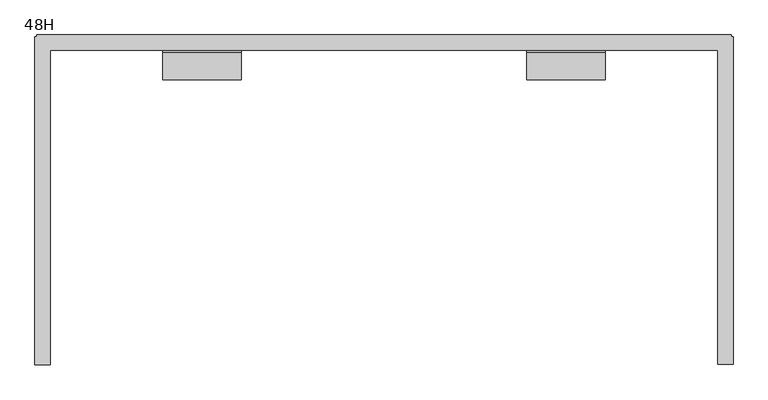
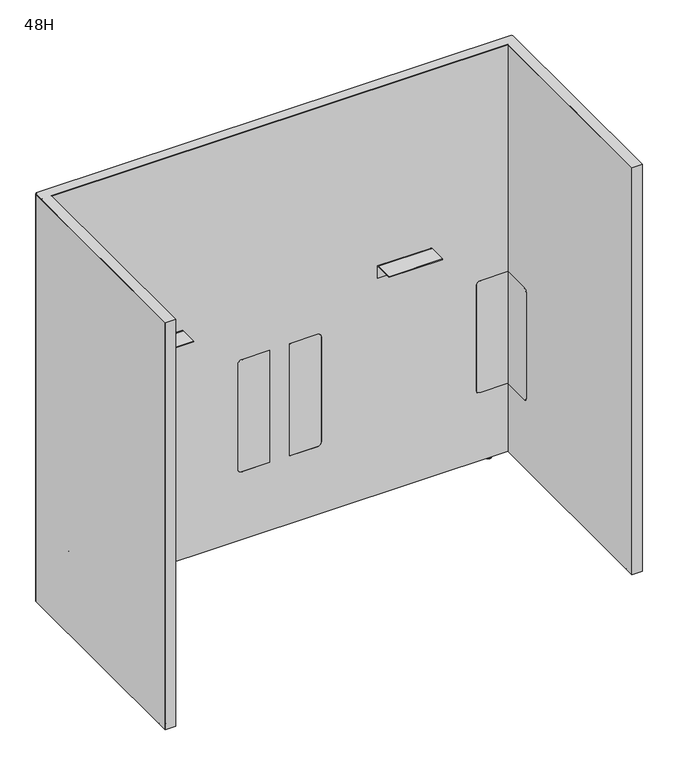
"""IFC4 building model written with IfcOpenShell, lengths in millimetres: furniture geometry, Steelcase - Answer Solution - Boundary Screen - L Return - Split : 48H."""

from ifc_helpers import new_model, si_unit, point, frame, frame_2d, origin, place, context, project, spatial, polyline, circle_curve, ellipse_curve, trimmed, segment, composite_curve, outline, extrude, faceted_brep, source, transform, mapped, element, save
from ifc_brep_helpers import plane_surface, cylinder_surface, revolved_surface, advanced_brep


def furniture_48h_390be50f(model_context):
    return source(origin(), model_context, "Body", "SolidModel", [
        extrude(outline(composite_curve([segment(polyline([(-109.3501471, 549.6162029), (-29.0550397, 549.6162029), (-29.0550397, 213.7762137), (-109.3501471, 213.7762137)]), True, "CONTINUOUS"), segment(trimmed(circle_curve(frame_2d((-109.3501471, 223.9362137)), 10.16), [point((-109.3501471, 213.7762137))], [point((-119.5101471, 223.9362137))], False, "CARTESIAN"), True, "CONTINUOUS"), segment(polyline([(-119.5101471, 223.9362137), (-119.5101471, 539.4562029)]), True, "CONTINUOUS"), segment(trimmed(circle_curve(frame_2d((-109.3501471, 539.4562029)), 10.16), [point((-119.5101471, 539.4562029))], [point((-109.3501471, 549.6162029))], False, "CARTESIAN"), True, "CONTINUOUS")], self_intersect=False)), frame((-418.5209652, 0.0, 0.0), z_axis=(1.0, 0.0, 0.0), x_axis=(0.0, 1.0, 0.0)), (0.0, 0.0, 1.0), 0.6401544),
        extrude(outline(composite_curve([segment(polyline([(-109.3501471, 549.6162029), (-29.0550397, 549.6162029), (-29.0550397, 213.7762137), (-109.3501471, 213.7762137)]), True, "CONTINUOUS"), segment(trimmed(circle_curve(frame_2d((-109.3501471, 223.9362137)), 10.16), [point((-109.3501471, 213.7762137))], [point((-119.5101471, 223.9362137))], False, "CARTESIAN"), True, "CONTINUOUS"), segment(polyline([(-119.5101471, 223.9362137), (-119.5101471, 539.4562029)]), True, "CONTINUOUS"), segment(trimmed(circle_curve(frame_2d((-109.3501471, 539.4562029)), 10.16), [point((-119.5101471, 539.4562029))], [point((-109.3501471, 549.6162029))], False, "CARTESIAN"), True, "CONTINUOUS")], self_intersect=False)), frame((877.5191891, 0.0, 0.0), z_axis=(1.0, 0.0, 0.0), x_axis=(0.0, 1.0, 0.0)), (0.0, 0.0, 1.0), 0.6401544),
        advanced_brep(
        [(892.3672074, -600.4136072, 0.0), (899.3216144, -600.4136072, 0.0), (885.4128003, -600.4136072, 0.0), (900.7762685, -600.4136072, 1.2700001), (883.9581463, -600.4136072, 1.2700001), (900.7762685, -600.4136072, 2.9673238), (883.9581463, -600.4136072, 2.9673238), (901.7427877, -600.4136072, 2.9673238), (882.991627, -600.4136072, 2.9673238), (901.7427877, -600.4136072, 9.9059849), (882.991627, -600.4136072, 9.9059849), (892.3672074, -600.4136072, 9.9059849)],
        [
            (0, 1),
            (1, 2, circle_curve(frame((892.3672074, -600.4136072, 0.0), z_axis=(0.0, 0.0, -1.0), x_axis=(1.0, 0.0, 0.0)), 6.9544071)),
            (2, 0),
            (2, 1, circle_curve(frame((892.3672074, -600.4136072, 0.0), z_axis=(0.0, 0.0, -1.0), x_axis=(1.0, 0.0, 0.0)), 6.9544071)),
            (1, 3, circle_curve(frame((899.4945484, -600.4136072, 1.2700001), z_axis=(0.0, -1.0, 0.0), x_axis=(0.0, 0.0, 1.0)), 1.2817201)),
            (3, 4, circle_curve(frame((892.3672074, -600.4136072, 1.2700001), z_axis=(0.0, 0.0, -1.0), x_axis=(1.0, 0.0, 0.0)), 8.4090611)),
            (4, 2, circle_curve(frame((885.2398663, -600.4136072, 1.2700001), z_axis=(0.0, -1.0, 0.0), x_axis=(0.0, 0.0, 1.0)), 1.2817201)),
            (4, 3, circle_curve(frame((892.3672074, -600.4136072, 1.2700001), z_axis=(0.0, 0.0, -1.0), x_axis=(1.0, 0.0, 0.0)), 8.4090611)),
            (3, 5),
            (5, 6, circle_curve(frame((892.3672074, -600.4136072, 2.9673238), z_axis=(0.0, 0.0, -1.0), x_axis=(1.0, 0.0, 0.0)), 8.4090611)),
            (6, 4),
            (6, 5, circle_curve(frame((892.3672074, -600.4136072, 2.9673238), z_axis=(0.0, 0.0, -1.0), x_axis=(1.0, 0.0, 0.0)), 8.4090611)),
            (5, 7),
            (7, 8, circle_curve(frame((892.3672074, -600.4136072, 2.9673238), z_axis=(0.0, 0.0, -1.0), x_axis=(1.0, 0.0, 0.0)), 9.3755804)),
            (8, 6),
            (8, 7, circle_curve(frame((892.3672074, -600.4136072, 2.9673238), z_axis=(0.0, 0.0, -1.0), x_axis=(1.0, 0.0, 0.0)), 9.3755804)),
            (7, 9),
            (9, 10, circle_curve(frame((892.3672074, -600.4136072, 9.9059849), z_axis=(0.0, 0.0, -1.0), x_axis=(1.0, 0.0, 0.0)), 9.3755804)),
            (10, 8),
            (10, 9, circle_curve(frame((892.3672074, -600.4136072, 9.9059849), z_axis=(0.0, 0.0, -1.0), x_axis=(1.0, 0.0, 0.0)), 9.3755804)),
            (9, 11),
            (11, 10),
        ],
        [
            plane_surface(frame((892.3672074, -600.4136072, 0.0), z_axis=(0.0, 0.0, -1.0), x_axis=(1.0, 0.0, 0.0))),
            revolved_surface(trimmed(ellipse_curve(frame((899.4945484, -600.4136072, 1.2700001), z_axis=(0.0, 1.0, 0.0), x_axis=(0.0, 0.0, 1.0)), 1.2817201, 1.2817201), [point((900.7762685, -600.4136072, 1.2700001))], [point((899.3216144, -600.4136072, 0.0))], True, "CARTESIAN"), (892.3672074, -600.4136072, 9.9059849), (0.0, 0.0, -1.0)),
            cylinder_surface(frame((892.3672074, -600.4136072, 9.9059849), z_axis=(0.0, 0.0, -1.0), x_axis=(1.0, 0.0, 0.0)), 8.4090611),
            plane_surface(frame((892.3672074, -600.4136072, 2.9673238), z_axis=(0.0, 0.0, -1.0), x_axis=(1.0, 0.0, 0.0))),
            cylinder_surface(frame((892.3672074, -600.4136072, 9.9059849), z_axis=(0.0, 0.0, -1.0), x_axis=(1.0, 0.0, 0.0)), 9.3755804),
            plane_surface(frame((892.3672074, -600.4136072, 9.9059849), z_axis=(0.0, 0.0, 1.0), x_axis=(1.0, 0.0, 0.0))),
        ],
        [
            (0, [[1, 2, 3]]),
            (0, [[-3, 4, -1]]),
            (1, [[-2, 5, 6, 7]]),
            (1, [[-4, -7, 8, -5]]),
            (2, [[-6, 9, 10, 11]]),
            (2, [[-8, -11, 12, -9]]),
            (3, [[-10, 13, 14, 15]]),
            (3, [[-12, -15, 16, -13]]),
            (4, [[-14, 17, 18, 19]]),
            (4, [[-16, -19, 20, -17]]),
            (5, [[-18, 21, 22]]),
            (5, [[-20, -22, -21]]),
        ],
    ),
        advanced_brep(
        [(-425.774422, -601.4042444, 0.0), (-439.6832361, -601.4042444, 0.0), (-432.7288291, -601.4042444, 0.0), (-424.319768, -601.4042444, 1.2700001), (-441.1378902, -601.4042444, 1.2700001), (-424.319768, -601.4042444, 2.9673238), (-441.1378902, -601.4042444, 2.9673238), (-423.3532487, -601.4042444, 2.9673238), (-442.1044095, -601.4042444, 2.9673238), (-423.3532487, -601.4042444, 9.9059849), (-442.1044095, -601.4042444, 9.9059849), (-432.7288291, -601.4042444, 9.9059849)],
        [
            (0, 1, circle_curve(frame((-432.7288291, -601.4042444, 0.0), z_axis=(0.0, 0.0, -1.0), x_axis=(-1.0, 0.0, 0.0)), 6.9544071)),
            (1, 2),
            (2, 0),
            (1, 0, circle_curve(frame((-432.7288291, -601.4042444, 0.0), z_axis=(0.0, 0.0, -1.0), x_axis=(-1.0, 0.0, 0.0)), 6.9544071)),
            (3, 4, circle_curve(frame((-432.7288291, -601.4042444, 1.2700001), z_axis=(0.0, 0.0, -1.0), x_axis=(-1.0, 0.0, 0.0)), 8.4090611)),
            (4, 1, circle_curve(frame((-439.8561701, -601.4042444, 1.2700001), z_axis=(0.0, -1.0, 0.0), x_axis=(0.0, 0.0, 1.0)), 1.2817201)),
            (0, 3, circle_curve(frame((-425.6014881, -601.4042444, 1.2700001), z_axis=(0.0, -1.0, 0.0), x_axis=(0.0, 0.0, 1.0)), 1.2817201)),
            (4, 3, circle_curve(frame((-432.7288291, -601.4042444, 1.2700001), z_axis=(0.0, 0.0, -1.0), x_axis=(-1.0, 0.0, 0.0)), 8.4090611)),
            (5, 6, circle_curve(frame((-432.7288291, -601.4042444, 2.9673238), z_axis=(0.0, 0.0, -1.0), x_axis=(-1.0, 0.0, 0.0)), 8.4090611)),
            (6, 4),
            (3, 5),
            (6, 5, circle_curve(frame((-432.7288291, -601.4042444, 2.9673238), z_axis=(0.0, 0.0, -1.0), x_axis=(-1.0, 0.0, 0.0)), 8.4090611)),
            (7, 8, circle_curve(frame((-432.7288291, -601.4042444, 2.9673238), z_axis=(0.0, 0.0, -1.0), x_axis=(-1.0, 0.0, 0.0)), 9.3755804)),
            (8, 6),
            (5, 7),
            (8, 7, circle_curve(frame((-432.7288291, -601.4042444, 2.9673238), z_axis=(0.0, 0.0, -1.0), x_axis=(-1.0, 0.0, 0.0)), 9.3755804)),
            (9, 10, circle_curve(frame((-432.7288291, -601.4042444, 9.9059849), z_axis=(0.0, 0.0, -1.0), x_axis=(-1.0, 0.0, 0.0)), 9.3755804)),
            (10, 8),
            (7, 9),
            (10, 9, circle_curve(frame((-432.7288291, -601.4042444, 9.9059849), z_axis=(0.0, 0.0, -1.0), x_axis=(-1.0, 0.0, 0.0)), 9.3755804)),
            (11, 10),
            (9, 11),
        ],
        [
            plane_surface(frame((-432.7288291, -601.4042444, 0.0), z_axis=(0.0, 0.0, -1.0), x_axis=(-1.0, 0.0, 0.0))),
            revolved_surface(trimmed(ellipse_curve(frame((-439.8561701, -601.4042444, 1.2700001), z_axis=(0.0, 1.0, 0.0), x_axis=(0.0, 0.0, 1.0)), 1.2817201, 1.2817201), [point((-439.6832361, -601.4042444, 0.0))], [point((-441.1378902, -601.4042444, 1.2700001))], True, "CARTESIAN"), (-432.7288291, -601.4042444, 9.9059849), (0.0, 0.0, 1.0)),
            cylinder_surface(frame((-432.7288291, -601.4042444, 9.9059849), z_axis=(0.0, 0.0, 1.0), x_axis=(-1.0, 0.0, 0.0)), 8.4090611),
            plane_surface(frame((-432.7288291, -601.4042444, 2.9673238), z_axis=(0.0, 0.0, -1.0), x_axis=(-1.0, 0.0, 0.0))),
            cylinder_surface(frame((-432.7288291, -601.4042444, 9.9059849), z_axis=(0.0, 0.0, 1.0), x_axis=(-1.0, 0.0, 0.0)), 9.3755804),
            plane_surface(frame((-432.7288291, -601.4042444, 9.9059849), z_axis=(0.0, 0.0, 1.0), x_axis=(-1.0, 0.0, 0.0))),
        ],
        [
            (0, [[1, 2, 3]]),
            (0, [[4, -3, -2]]),
            (1, [[5, 6, -1, 7]]),
            (1, [[8, -7, -4, -6]]),
            (2, [[9, 10, -5, 11]]),
            (2, [[12, -11, -8, -10]]),
            (3, [[13, 14, -9, 15]]),
            (3, [[16, -15, -12, -14]]),
            (4, [[17, 18, -13, 19]]),
            (4, [[20, -19, -16, -18]]),
            (5, [[21, -17, 22]]),
            (5, [[-22, -20, -21]]),
        ],
    ),
        faceted_brep([(903.9531179, 0.0, 1230.122), (903.9531179, 0.0, 9.9059849), (902.9621491, 0.0, 9.9059849), (902.9621491, 0.0, 1229.142118), (-443.3237709, 0.0, 1229.142118), (-443.3237709, 0.0, 9.9059849), (-444.3147397, 0.0, 9.9059849), (-444.3147397, 0.0, 1230.122), (-444.3147397, -29.6898332, 9.9059849), (-443.3237709, -29.6898332, 9.9059849), (-443.3237709, -29.6898332, 1229.142118), (-444.3147397, -29.6898332, 1229.142118), (902.9621491, -29.6898332, 1229.142118), (902.9621491, -29.6898332, 9.9059849), (903.9531179, -29.6898332, 9.9059849), (903.9531179, -29.6898332, 1229.142118), (-417.8808109, -29.6898332, 1230.122), (-417.8808109, -29.6898332, 1229.142118), (877.5191891, -29.6898332, 1229.142118), (877.5191891, -29.6898332, 1230.122), (903.9531179, -3.2625916, 1230.122), (903.9531179, -3.2625916, 9.9059849), (903.9531179, -4.252647, 9.9059849), (903.9531179, -4.252647, 1229.142118), (907.2152256, -3.2625916, 9.9059849), (907.2152256, -4.252647, 9.9059849), (902.9621491, -4.252647, 9.9059849), (877.5191891, -4.252647, 9.9059849), (877.5191891, -3.2625916, 9.9059849), (902.9621491, -3.2625916, 9.9059849), (-444.3147397, -3.2625916, 9.9059849), (-444.3147397, -3.2625916, 1230.122), (-444.3147397, -4.252647, 1229.142118), (-444.3147397, -4.252647, 9.9059849), (-447.5768473, -3.2625916, 1230.122), (-447.5768473, -640.2804704, 1230.122), (-417.8808109, -640.2804704, 1230.122), (877.5191891, -639.2898332, 1230.122), (907.2152256, -639.2898332, 1230.122), (907.2152256, -3.2625916, 1230.122), (902.9621491, -3.2625916, 1229.142118), (902.9621491, -4.252647, 1229.142118), (877.5191891, -3.2625916, 1229.142118), (877.5191891, -4.252647, 1229.142118), (907.2152256, -4.252647, 1229.142118), (907.2152256, -638.299196, 1229.142118), (877.5191891, -638.299196, 1229.142118), (-417.8808109, -639.2898332, 1229.142118), (-447.5768473, -639.2898332, 1229.142118), (-447.5768473, -4.252647, 1229.142118), (-443.3237709, -4.252647, 1229.142118), (-417.8808109, -4.252647, 1229.142118), (-417.8808109, -3.2625916, 1229.142118), (-443.3237709, -3.2625916, 1229.142118), (-443.3237709, -3.2625916, 9.9059849), (-443.3237709, -4.252647, 9.9059849), (-417.8808109, -3.2625916, 9.9059849), (-417.8808109, -4.252647, 9.9059849), (-447.5768473, -4.252647, 9.9059849), (-447.5768473, -3.2625916, 9.9059849), (-417.8808109, -640.2804704, 9.9059849), (-417.8808109, -639.2898332, 9.9059849), (-447.5768473, -639.2898332, 9.9059849), (-447.5768473, -640.2804704, 9.9059849), (877.5191891, -638.299196, 9.9059849), (877.5191891, -639.2898332, 9.9059849), (907.2152256, -639.2898332, 9.9059849), (907.2152256, -638.299196, 9.9059849)], [[[0, 1, 2, 3, 4, 5, 6, 7]], [[8, 9, 10, 11]], [[12, 13, 14, 15]], [[16, 17, 18, 19]], [[1, 0, 20, 21]], [[15, 14, 22, 23]], [[2, 1, 21, 24, 25, 22, 14, 13, 26, 27, 28, 29]], [[7, 6, 30, 31]], [[8, 11, 32, 33]], [[0, 7, 31, 34, 35, 36, 16, 19, 37, 38, 39, 20]], [[3, 2, 29, 40]], [[13, 12, 41, 26]], [[4, 3, 40, 42, 43, 41, 12, 15, 23, 44, 45, 46, 18, 17, 47, 48, 49, 32, 11, 10, 50, 51, 52, 53]], [[5, 4, 53, 54]], [[10, 9, 55, 50]], [[6, 5, 54, 56, 57, 55, 9, 8, 33, 58, 59, 30]], [[36, 60, 61, 47, 17, 16]], [[51, 57, 56, 52]], [[35, 34, 59, 58, 49, 48, 62, 63]], [[56, 54, 53, 52]], [[59, 34, 31, 30]], [[57, 51, 50, 55]], [[49, 58, 33, 32]], [[47, 61, 62, 48]], [[61, 60, 63, 62]], [[60, 36, 35, 63]], [[28, 27, 43, 42]], [[46, 64, 65, 37, 19, 18]], [[38, 66, 67, 45, 44, 25, 24, 39]], [[29, 28, 42, 40]], [[39, 24, 21, 20]], [[43, 27, 26, 41]], [[25, 44, 23, 22]], [[64, 46, 45, 67]], [[65, 64, 67, 66]], [[37, 65, 66, 38]]]),
        advanced_brep(
        [(-370.386307, -14.8449166, 9.9059849), (-370.386307, -5.9309607, 9.9059849), (-370.386307, -23.7588726, 9.9059849), (-370.386307, -5.9309607, 2.9673238), (-370.386307, -23.7588726, 2.9673238), (-370.386307, -6.8982978, 2.9673238), (-370.386307, -22.7915354, 2.9673238), (-370.386307, -6.8982978, 1.6569081), (-370.386307, -22.7915354, 1.6569081), (-370.386307, -8.5552059, 0.0), (-370.386307, -21.1346274, 0.0), (-370.386307, -14.8449166, 0.0)],
        [
            (0, 1),
            (1, 2, circle_curve(frame((-370.386307, -14.8449166, 9.9059849), z_axis=(0.0, 0.0, 1.0), x_axis=(0.0, 1.0, 0.0)), 8.913956)),
            (2, 0),
            (2, 1, circle_curve(frame((-370.386307, -14.8449166, 9.9059849), z_axis=(0.0, 0.0, 1.0), x_axis=(0.0, 1.0, 0.0)), 8.913956)),
            (1, 3),
            (3, 4, circle_curve(frame((-370.386307, -14.8449166, 2.9673238), z_axis=(0.0, 0.0, 1.0), x_axis=(0.0, 1.0, 0.0)), 8.913956)),
            (4, 2),
            (4, 3, circle_curve(frame((-370.386307, -14.8449166, 2.9673238), z_axis=(0.0, 0.0, 1.0), x_axis=(0.0, 1.0, 0.0)), 8.913956)),
            (3, 5),
            (5, 6, circle_curve(frame((-370.386307, -14.8449166, 2.9673238), z_axis=(0.0, 0.0, 1.0), x_axis=(0.0, 1.0, 0.0)), 7.9466188)),
            (6, 4),
            (6, 5, circle_curve(frame((-370.386307, -14.8449166, 2.9673238), z_axis=(0.0, 0.0, 1.0), x_axis=(0.0, 1.0, 0.0)), 7.9466188)),
            (5, 7),
            (7, 8, circle_curve(frame((-370.386307, -14.8449166, 1.6569081), z_axis=(0.0, 0.0, 1.0), x_axis=(0.0, 1.0, 0.0)), 7.9466188)),
            (8, 6),
            (8, 7, circle_curve(frame((-370.386307, -14.8449166, 1.6569081), z_axis=(0.0, 0.0, 1.0), x_axis=(0.0, 1.0, 0.0)), 7.9466188)),
            (7, 9, circle_curve(frame((-370.386307, -8.5552059, 1.6569081), z_axis=(-1.0, 0.0, 0.0), x_axis=(0.0, 1.0, 0.0)), 1.6569081)),
            (9, 10, circle_curve(frame((-370.386307, -14.8449166, 0.0), z_axis=(0.0, 0.0, 1.0), x_axis=(0.0, 1.0, 0.0)), 6.2897107)),
            (10, 8, circle_curve(frame((-370.386307, -21.1346274, 1.6569081), z_axis=(-1.0, 0.0, 0.0), x_axis=(0.0, -1.0, 0.0)), 1.6569081)),
            (10, 9, circle_curve(frame((-370.386307, -14.8449166, 0.0), z_axis=(0.0, 0.0, 1.0), x_axis=(0.0, 1.0, 0.0)), 6.2897107)),
            (9, 11),
            (11, 10),
        ],
        [
            plane_surface(frame((-370.386307, -14.8449166, 9.9059849), z_axis=(0.0, 0.0, 1.0), x_axis=(0.0, 1.0, 0.0))),
            cylinder_surface(frame((-370.386307, -14.8449166, 9.9059849), z_axis=(0.0, 0.0, 1.0), x_axis=(0.0, 1.0, 0.0)), 8.913956),
            plane_surface(frame((-370.386307, -14.8449166, 2.9673238), z_axis=(0.0, 0.0, -1.0), x_axis=(0.0, 1.0, 0.0))),
            cylinder_surface(frame((-370.386307, -14.8449166, 9.9059849), z_axis=(0.0, 0.0, 1.0), x_axis=(0.0, 1.0, 0.0)), 7.9466188),
            revolved_surface(trimmed(ellipse_curve(frame((-370.386307, -8.5552059, 1.6569081), z_axis=(1.0, 0.0, 0.0), x_axis=(0.0, 1.0, 0.0)), 1.6569081, 1.6569081), [point((-370.386307, -8.5552059, 0.0))], [point((-370.386307, -6.8982978, 1.6569081))], True, "CARTESIAN"), (-370.386307, -14.8449166, 9.9059849), (0.0, 0.0, 1.0)),
            plane_surface(frame((-370.386307, -14.8449166, 0.0), z_axis=(0.0, 0.0, -1.0), x_axis=(0.0, 1.0, 0.0))),
        ],
        [
            (0, [[1, 2, 3]]),
            (0, [[-3, 4, -1]]),
            (1, [[-2, 5, 6, 7]]),
            (1, [[-4, -7, 8, -5]]),
            (2, [[-6, 9, 10, 11]]),
            (2, [[-8, -11, 12, -9]]),
            (3, [[-10, 13, 14, 15]]),
            (3, [[-12, -15, 16, -13]]),
            (4, [[-14, 17, 18, 19]]),
            (4, [[-16, -19, 20, -17]]),
            (5, [[-18, 21, 22]]),
            (5, [[-20, -22, -21]]),
        ],
    ),
        extrude(outline(composite_curve([segment(polyline([(-86.8398151, 696.4680019), (-86.8398151, 698.5), (-34.9450855, 698.5)]), True, "CONTINUOUS"), segment(trimmed(circle_curve(frame_2d((-34.9450855, 693.2447477)), 5.2552523), [point((-34.9450855, 698.5))], [point((-29.6898332, 693.2447477))], False, "CARTESIAN"), True, "CONTINUOUS"), segment(polyline([(-29.6898332, 693.2447477), (-29.6898332, 660.4), (-31.7218162, 660.4), (-31.7218162, 693.0058743)]), True, "CONTINUOUS"), segment(trimmed(circle_curve(frame_2d((-35.1839438, 693.0058743)), 3.4621276), [point((-31.7218162, 693.0058743))], [point((-35.1839438, 696.4680019))], True, "CARTESIAN"), True, "CONTINUOUS"), segment(polyline([(-35.1839438, 696.4680019), (-86.8398151, 696.4680019)]), True, "CONTINUOUS")], self_intersect=False)), frame((506.4762371, 0.0, 0.0), z_axis=(1.0, 0.0, 0.0), x_axis=(0.0, 1.0, 0.0)), (0.0, 0.0, 1.0), 152.4000969),
        extrude(outline(composite_curve([segment(polyline([(-86.8398151, 696.4680019), (-86.8398151, 698.5), (-34.9450855, 698.5)]), True, "CONTINUOUS"), segment(trimmed(circle_curve(frame_2d((-34.9450855, 693.2447477)), 5.2552523), [point((-34.9450855, 698.5))], [point((-29.6898332, 693.2447477))], False, "CARTESIAN"), True, "CONTINUOUS"), segment(polyline([(-29.6898332, 693.2447477), (-29.6898332, 660.4), (-31.7218162, 660.4), (-31.7218162, 693.0058743)]), True, "CONTINUOUS"), segment(trimmed(circle_curve(frame_2d((-35.1839438, 693.0058743)), 3.4621276), [point((-31.7218162, 693.0058743))], [point((-35.1839438, 696.4680019))], True, "CARTESIAN"), True, "CONTINUOUS"), segment(polyline([(-35.1839438, 696.4680019), (-86.8398151, 696.4680019)]), True, "CONTINUOUS")], self_intersect=False)), frame((-199.2364763, 0.0, 0.0), z_axis=(1.0, 0.0, 0.0), x_axis=(0.0, 1.0, 0.0)), (0.0, 0.0, 1.0), 152.4000969),
        advanced_brep(
        [(830.0246853, -23.7588726, 9.9059849), (830.0246853, -5.9309607, 9.9059849), (830.0246853, -14.8449166, 9.9059849), (830.0246853, -23.7588726, 2.9673238), (830.0246853, -5.9309607, 2.9673238), (830.0246853, -22.7915354, 2.9673238), (830.0246853, -6.8982978, 2.9673238), (830.0246853, -22.7915354, 1.6569081), (830.0246853, -6.8982978, 1.6569081), (830.0246853, -21.1346274, 0.0), (830.0246853, -8.5552059, 0.0), (830.0246853, -14.8449166, 0.0)],
        [
            (0, 1, circle_curve(frame((830.0246853, -14.8449166, 9.9059849), z_axis=(0.0, 0.0, 1.0), x_axis=(0.0, 1.0, 0.0)), 8.913956)),
            (1, 2),
            (2, 0),
            (1, 0, circle_curve(frame((830.0246853, -14.8449166, 9.9059849), z_axis=(0.0, 0.0, 1.0), x_axis=(0.0, 1.0, 0.0)), 8.913956)),
            (3, 4, circle_curve(frame((830.0246853, -14.8449166, 2.9673238), z_axis=(0.0, 0.0, 1.0), x_axis=(0.0, 1.0, 0.0)), 8.913956)),
            (4, 1),
            (0, 3),
            (4, 3, circle_curve(frame((830.0246853, -14.8449166, 2.9673238), z_axis=(0.0, 0.0, 1.0), x_axis=(0.0, 1.0, 0.0)), 8.913956)),
            (5, 6, circle_curve(frame((830.0246853, -14.8449166, 2.9673238), z_axis=(0.0, 0.0, 1.0), x_axis=(0.0, 1.0, 0.0)), 7.9466188)),
            (6, 4),
            (3, 5),
            (6, 5, circle_curve(frame((830.0246853, -14.8449166, 2.9673238), z_axis=(0.0, 0.0, 1.0), x_axis=(0.0, 1.0, 0.0)), 7.9466188)),
            (7, 8, circle_curve(frame((830.0246853, -14.8449166, 1.6569081), z_axis=(0.0, 0.0, 1.0), x_axis=(0.0, 1.0, 0.0)), 7.9466188)),
            (8, 6),
            (5, 7),
            (8, 7, circle_curve(frame((830.0246853, -14.8449166, 1.6569081), z_axis=(0.0, 0.0, 1.0), x_axis=(0.0, 1.0, 0.0)), 7.9466188)),
            (9, 10, circle_curve(frame((830.0246853, -14.8449166, 0.0), z_axis=(0.0, 0.0, 1.0), x_axis=(0.0, 1.0, 0.0)), 6.2897107)),
            (10, 8, circle_curve(frame((830.0246853, -8.5552059, 1.6569081), z_axis=(1.0, 0.0, 0.0), x_axis=(0.0, 1.0, 0.0)), 1.6569081)),
            (7, 9, circle_curve(frame((830.0246853, -21.1346274, 1.6569081), z_axis=(1.0, 0.0, 0.0), x_axis=(0.0, -1.0, 0.0)), 1.6569081)),
            (10, 9, circle_curve(frame((830.0246853, -14.8449166, 0.0), z_axis=(0.0, 0.0, 1.0), x_axis=(0.0, 1.0, 0.0)), 6.2897107)),
            (11, 10),
            (9, 11),
        ],
        [
            plane_surface(frame((830.0246853, -14.8449166, 9.9059849), z_axis=(0.0, 0.0, 1.0), x_axis=(0.0, 1.0, 0.0))),
            cylinder_surface(frame((830.0246853, -14.8449166, 9.9059849), z_axis=(0.0, 0.0, -1.0), x_axis=(0.0, 1.0, 0.0)), 8.913956),
            plane_surface(frame((830.0246853, -14.8449166, 2.9673238), z_axis=(0.0, 0.0, -1.0), x_axis=(0.0, 1.0, 0.0))),
            cylinder_surface(frame((830.0246853, -14.8449166, 9.9059849), z_axis=(0.0, 0.0, -1.0), x_axis=(0.0, 1.0, 0.0)), 7.9466188),
            revolved_surface(trimmed(ellipse_curve(frame((830.0246853, -8.5552059, 1.6569081), z_axis=(-1.0, 0.0, 0.0), x_axis=(0.0, 1.0, 0.0)), 1.6569081, 1.6569081), [point((830.0246853, -6.8982978, 1.6569081))], [point((830.0246853, -8.5552059, 0.0))], True, "CARTESIAN"), (830.0246853, -14.8449166, 9.9059849), (0.0, 0.0, -1.0)),
            plane_surface(frame((830.0246853, -14.8449166, 0.0), z_axis=(0.0, 0.0, -1.0), x_axis=(0.0, 1.0, 0.0))),
        ],
        [
            (0, [[1, 2, 3]]),
            (0, [[4, -3, -2]]),
            (1, [[5, 6, -1, 7]]),
            (1, [[8, -7, -4, -6]]),
            (2, [[9, 10, -5, 11]]),
            (2, [[12, -11, -8, -10]]),
            (3, [[13, 14, -9, 15]]),
            (3, [[16, -15, -12, -14]]),
            (4, [[17, 18, -13, 19]]),
            (4, [[20, -19, -16, -18]]),
            (5, [[21, -17, 22]]),
            (5, [[-22, -20, -21]]),
        ],
    ),
        advanced_brep(
        [(-443.3237709, 0.0, 1229.142118), (902.9621491, 0.0, 1229.142118), (902.9621491, 0.0, 9.9059849), (-443.3237709, 0.0, 9.9059849), (201.5038947, -29.0550397, 549.6162029), (121.849997, -29.0550397, 549.6162029), (111.689997, -29.0550397, 539.4562029), (111.689997, -29.0550397, 223.9362137), (121.849997, -29.0550397, 213.7762137), (201.5038947, -29.0550397, 213.7762137), (347.9483813, -29.0550397, 539.4562029), (337.7883813, -29.0550397, 549.6162029), (258.1344836, -29.0550397, 549.6162029), (258.1344836, -29.0550397, 213.7762137), (337.7883813, -29.0550397, 213.7762137), (347.9483813, -29.0550397, 223.9362137), (-418.5209652, -29.0550397, 549.6162029), (-418.5209652, -29.0550397, 213.7762137), (-337.9725485, -29.0550397, 213.7762137), (-327.8125485, -29.0550397, 223.9362137), (-327.8125485, -29.0550397, 539.4562029), (-337.9725485, -29.0550397, 549.6162029), (878.1593435, -29.0550397, 213.7762137), (878.1593435, -29.0550397, 549.6162029), (797.6109268, -29.0550397, 549.6162029), (787.4509268, -29.0550397, 539.4562029), (787.4509268, -29.0550397, 223.9362137), (797.6109268, -29.0550397, 213.7762137), (-417.8808109, -639.2898332, 1229.142118), (-417.8808109, -639.2898332, 9.9059849), (-417.8808109, -29.6898332, 9.9059849), (-417.8808109, -29.6898332, 213.7762137), (-417.8808109, -109.3501471, 213.7762137), (-417.8808109, -119.5101471, 223.9362137), (-417.8808109, -119.5101471, 539.4562029), (-417.8808109, -109.3501471, 549.6162029), (-417.8808109, -29.6898332, 549.6162029), (-417.8808109, -29.6898332, 1229.142118), (-447.5768473, -639.2898332, 1229.142118), (-447.5768473, -4.252647, 1229.142118), (-447.5768473, -4.252647, 9.9059849), (-447.5768473, -639.2898332, 9.9059849), (877.5191891, -29.6898332, 1229.142118), (877.5191891, -638.299196, 1229.142118), (907.2152256, -638.299196, 1229.142118), (907.2152256, -4.252647, 1229.142118), (902.9621491, -4.252647, 1229.142118), (-443.3237709, -4.252647, 1229.142118), (-443.3237709, -4.252647, 9.9059849), (902.9621491, -4.252647, 9.9059849), (907.2152256, -4.252647, 9.9059849), (907.2152256, -638.299196, 9.9059849), (877.5191891, -638.299196, 9.9059849), (877.5191891, -29.6898332, 9.9059849), (-418.5209652, -119.5101471, 539.4562029), (-418.5209652, -109.3501471, 549.6162029), (-418.5209652, -119.5101471, 223.9362137), (-418.5209652, -109.3501471, 213.7762137), (-337.9725485, -29.6898332, 213.7762137), (-337.9725485, -29.6898332, 549.6162029), (797.6109268, -29.6898332, 213.7762137), (787.4509268, -29.6898332, 223.9362137), (787.4509268, -29.6898332, 539.4562029), (797.6109268, -29.6898332, 549.6162029), (877.5191891, -29.6898332, 549.6162029), (-327.8125485, -29.6898332, 539.4562029), (-327.8125485, -29.6898332, 223.9362137), (877.5191891, -29.6898332, 213.7762137), (121.849997, -29.6898332, 549.6162029), (201.5038947, -29.6898332, 549.6162029), (201.5038947, -29.6898332, 213.7762137), (121.849997, -29.6898332, 213.7762137), (111.689997, -29.6898332, 223.9362137), (111.689997, -29.6898332, 539.4562029), (337.7883813, -29.6898332, 549.6162029), (347.9483813, -29.6898332, 539.4562029), (347.9483813, -29.6898332, 223.9362137), (337.7883813, -29.6898332, 213.7762137), (258.1344836, -29.6898332, 213.7762137), (258.1344836, -29.6898332, 549.6162029), (878.1593435, -109.3501471, 549.6162029), (877.5191891, -109.3501471, 549.6162029), (878.1593435, -109.3501471, 213.7762137), (878.1593435, -119.5101471, 223.9362137), (878.1593435, -119.5101471, 539.4562029), (877.5191891, -109.3501471, 213.7762137), (877.5191891, -119.5101471, 539.4562029), (877.5191891, -119.5101471, 223.9362137)],
        [
            (0, 1),
            (1, 2),
            (2, 3),
            (3, 0),
            (4, 5),
            (5, 6, circle_curve(frame((121.849997, -29.0550397, 539.4562029), z_axis=(0.0, -1.0, 0.0), x_axis=(0.0, 0.0, 1.0)), 10.16)),
            (6, 7),
            (7, 8, circle_curve(frame((121.849997, -29.0550397, 223.9362137), z_axis=(0.0, -1.0, 0.0), x_axis=(0.0, 0.0, 1.0)), 10.16)),
            (8, 9),
            (9, 4),
            (10, 11, circle_curve(frame((337.7883813, -29.0550397, 539.4562029), z_axis=(0.0, -1.0, 0.0), x_axis=(0.0, 0.0, 1.0)), 10.16)),
            (11, 12),
            (12, 13),
            (13, 14),
            (14, 15, circle_curve(frame((337.7883813, -29.0550397, 223.9362137), z_axis=(0.0, -1.0, 0.0), x_axis=(0.0, 0.0, 1.0)), 10.16)),
            (15, 10),
            (16, 17),
            (17, 18),
            (18, 19, circle_curve(frame((-337.9725485, -29.0550397, 223.9362137), z_axis=(0.0, -1.0, 0.0), x_axis=(0.0, 0.0, 1.0)), 10.16)),
            (19, 20),
            (20, 21, circle_curve(frame((-337.9725485, -29.0550397, 539.4562029), z_axis=(0.0, -1.0, 0.0), x_axis=(0.0, 0.0, 1.0)), 10.16)),
            (21, 16),
            (22, 23),
            (23, 24),
            (24, 25, circle_curve(frame((797.6109268, -29.0550397, 539.4562029), z_axis=(0.0, -1.0, 0.0), x_axis=(0.0, 0.0, 1.0)), 10.16)),
            (25, 26),
            (26, 27, circle_curve(frame((797.6109268, -29.0550397, 223.9362137), z_axis=(0.0, -1.0, 0.0), x_axis=(0.0, 0.0, 1.0)), 10.16)),
            (27, 22),
            (28, 29),
            (29, 30),
            (30, 31),
            (31, 32),
            (32, 33, circle_curve(frame((-417.8808109, -109.3501471, 223.9362137), z_axis=(-1.0, 0.0, 0.0), x_axis=(0.0, 1.0, 0.0)), 10.16)),
            (33, 34),
            (34, 35, circle_curve(frame((-417.8808109, -109.3501471, 539.4562029), z_axis=(-1.0, 0.0, 0.0), x_axis=(0.0, 1.0, 0.0)), 10.16)),
            (35, 36),
            (36, 37),
            (37, 28),
            (38, 39),
            (39, 40),
            (40, 41),
            (41, 38),
            (38, 28),
            (37, 42),
            (42, 43),
            (43, 44),
            (44, 45),
            (45, 46),
            (46, 1),
            (0, 47),
            (47, 39),
            (47, 48),
            (48, 40),
            (48, 3),
            (2, 49),
            (49, 50),
            (50, 51),
            (51, 52),
            (52, 53),
            (53, 30),
            (29, 41),
            (34, 54),
            (54, 55, circle_curve(frame((-418.5209652, -109.3501471, 539.4562029), z_axis=(-1.0, 0.0, 0.0), x_axis=(0.0, 1.0, 0.0)), 10.16)),
            (55, 35),
            (33, 56),
            (56, 54),
            (32, 57),
            (57, 56, circle_curve(frame((-418.5209652, -109.3501471, 223.9362137), z_axis=(-1.0, 0.0, 0.0), x_axis=(0.0, 1.0, 0.0)), 10.16)),
            (58, 18),
            (17, 57),
            (31, 58),
            (21, 59),
            (59, 36),
            (55, 16),
            (60, 61, circle_curve(frame((797.6109268, -29.6898332, 223.9362137), z_axis=(0.0, 1.0, 0.0), x_axis=(0.0, 0.0, 1.0)), 10.16)),
            (61, 62),
            (62, 63, circle_curve(frame((797.6109268, -29.6898332, 539.4562029), z_axis=(0.0, 1.0, 0.0), x_axis=(0.0, 0.0, 1.0)), 10.16)),
            (63, 64),
            (64, 42),
            (59, 65, circle_curve(frame((-337.9725485, -29.6898332, 539.4562029), z_axis=(0.0, 1.0, 0.0), x_axis=(0.0, 0.0, 1.0)), 10.16)),
            (65, 66),
            (66, 58, circle_curve(frame((-337.9725485, -29.6898332, 223.9362137), z_axis=(0.0, 1.0, 0.0), x_axis=(0.0, 0.0, 1.0)), 10.16)),
            (53, 67),
            (67, 60),
            (68, 69),
            (69, 70),
            (70, 71),
            (71, 72, circle_curve(frame((121.849997, -29.6898332, 223.9362137), z_axis=(0.0, 1.0, 0.0), x_axis=(0.0, 0.0, 1.0)), 10.16)),
            (72, 73),
            (73, 68, circle_curve(frame((121.849997, -29.6898332, 539.4562029), z_axis=(0.0, 1.0, 0.0), x_axis=(0.0, 0.0, 1.0)), 10.16)),
            (74, 75, circle_curve(frame((337.7883813, -29.6898332, 539.4562029), z_axis=(0.0, 1.0, 0.0), x_axis=(0.0, 0.0, 1.0)), 10.16)),
            (75, 76),
            (76, 77, circle_curve(frame((337.7883813, -29.6898332, 223.9362137), z_axis=(0.0, 1.0, 0.0), x_axis=(0.0, 0.0, 1.0)), 10.16)),
            (77, 78),
            (78, 79),
            (79, 74),
            (46, 49),
            (68, 5),
            (4, 69),
            (9, 70),
            (8, 71),
            (7, 72),
            (6, 73),
            (74, 11),
            (10, 75),
            (15, 76),
            (14, 77),
            (13, 78),
            (12, 79),
            (23, 80),
            (80, 81),
            (81, 64),
            (63, 24),
            (82, 83, circle_curve(frame((878.1593435, -109.3501471, 223.9362137), z_axis=(-1.0, 0.0, 0.0), x_axis=(0.0, 1.0, 0.0)), 10.16)),
            (83, 84),
            (84, 80, circle_curve(frame((878.1593435, -109.3501471, 539.4562029), z_axis=(-1.0, 0.0, 0.0), x_axis=(0.0, 1.0, 0.0)), 10.16)),
            (22, 82),
            (27, 60),
            (67, 85),
            (85, 82),
            (26, 61),
            (25, 62),
            (66, 19),
            (65, 20),
            (52, 43),
            (81, 86, circle_curve(frame((877.5191891, -109.3501471, 539.4562029), z_axis=(1.0, 0.0, 0.0), x_axis=(0.0, 1.0, 0.0)), 10.16)),
            (86, 87),
            (87, 85, circle_curve(frame((877.5191891, -109.3501471, 223.9362137), z_axis=(1.0, 0.0, 0.0), x_axis=(0.0, 1.0, 0.0)), 10.16)),
            (44, 51),
            (50, 45),
            (84, 86),
            (83, 87),
        ],
        [
            plane_surface(frame((347.9483813, 0.0, 549.6162029), z_axis=(0.0, 1.0, 0.0), x_axis=(0.0, 0.0, -1.0))),
            plane_surface(frame((347.9483813, -29.0550397, 549.6162029), z_axis=(0.0, -1.0, 0.0), x_axis=(0.0, 0.0, 1.0))),
            plane_surface(frame((-417.8808109, -4.252647, 1229.142118), z_axis=(1.0, 0.0, 0.0), x_axis=(0.0, -1.0, 0.0))),
            plane_surface(frame((-447.5768473, -4.252647, 1229.142118), z_axis=(-1.0, 0.0, 0.0), x_axis=(0.0, 1.0, 0.0))),
            plane_surface(frame((-447.5768473, -639.2898332, 1229.142118), z_axis=(0.0, 0.0, 1.0), x_axis=(1.0, 0.0, 0.0))),
            plane_surface(frame((-447.5768473, -4.252647, 1229.142118), z_axis=(0.0, 1.0, 0.0), x_axis=(1.0, 0.0, 0.0))),
            plane_surface(frame((-447.5768473, -4.252647, 9.9059849), z_axis=(0.0, 0.0, -1.0), x_axis=(1.0, 0.0, 0.0))),
            plane_surface(frame((-447.5768473, -639.2898332, 9.9059849), z_axis=(0.0, -1.0, 0.0), x_axis=(1.0, 0.0, 0.0))),
            revolved_surface(polyline([(-417.88081090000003, -99.1901471, 539.4562029), (-418.5209652, -99.1901471, 539.4562029)]), (830.0246853, -109.3501471, 539.4562029), (1.0, 0.0, 0.0)),
            plane_surface(frame((-447.5768473, -119.5101471, 539.4562029), z_axis=(0.0, 1.0, 0.0), x_axis=(1.0, 0.0, 0.0))),
            revolved_surface(polyline([(-417.88081090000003, -99.1901471, 223.9362137), (-418.5209652, -99.1901471, 223.9362137)]), (830.0246853, -109.3501471, 223.9362137), (1.0, 0.0, 0.0)),
            plane_surface(frame((-447.5768473, -109.3501471, 213.7762137), z_axis=(0.0, 0.0, 1.0), x_axis=(1.0, 0.0, 0.0))),
            plane_surface(frame((-447.5768473, -29.0550397, 549.6162029), z_axis=(0.0, 0.0, -1.0), x_axis=(1.0, 0.0, 0.0))),
            plane_surface(frame((902.9621491, -29.6898332, 1229.142118), z_axis=(0.0, -1.0, 0.0), x_axis=(-1.0, 0.0, 0.0))),
            plane_surface(frame((-443.3237709, 0.0, 9.9059849), z_axis=(-1.0, 0.0, 0.0), x_axis=(0.0, -1.0, 0.0))),
            plane_surface(frame((902.9621491, 0.0, 1229.142118), z_axis=(1.0, 0.0, 0.0), x_axis=(0.0, -1.0, 0.0))),
            plane_surface(frame((201.5038947, 0.0, 549.6162029), z_axis=(0.0, 0.0, -1.0), x_axis=(0.0, -1.0, 0.0))),
            plane_surface(frame((201.5038947, 0.0, 213.7762137), z_axis=(-1.0, 0.0, 0.0), x_axis=(0.0, -1.0, 0.0))),
            plane_surface(frame((121.849997, 0.0, 213.7762137), z_axis=(0.0, 0.0, 1.0), x_axis=(0.0, -1.0, 0.0))),
            revolved_surface(polyline([(121.849997, -29.6898332, 234.0962137), (121.849997, -29.0550397, 234.0962137)]), (121.849997, -29.6898332, 223.9362137), (0.0, -1.0, 0.0)),
            plane_surface(frame((111.689997, 0.0, 539.4562029), z_axis=(1.0, 0.0, 0.0), x_axis=(0.0, -1.0, 0.0))),
            revolved_surface(polyline([(121.849997, -29.6898332, 549.6162029), (121.849997, -29.0550397, 549.6162029)]), (121.849997, -29.6898332, 539.4562029), (0.0, -1.0, 0.0)),
            revolved_surface(polyline([(337.7883813, -29.6898332, 549.6162029), (337.7883813, -29.0550397, 549.6162029)]), (337.7883813, -29.6898332, 539.4562029), (0.0, -1.0, 0.0)),
            plane_surface(frame((347.9483813, 0.0, 223.9362137), z_axis=(-1.0, 0.0, 0.0), x_axis=(0.0, -1.0, 0.0))),
            revolved_surface(polyline([(337.7883813, -29.6898332, 234.0962137), (337.7883813, -29.0550397, 234.0962137)]), (337.7883813, -29.6898332, 223.9362137), (0.0, -1.0, 0.0)),
            plane_surface(frame((258.1344836, 0.0, 213.7762137), z_axis=(0.0, 0.0, 1.0), x_axis=(0.0, -1.0, 0.0))),
            plane_surface(frame((258.1344836, 0.0, 549.6162029), z_axis=(1.0, 0.0, 0.0), x_axis=(0.0, -1.0, 0.0))),
            plane_surface(frame((337.7883813, 0.0, 549.6162029), z_axis=(0.0, 0.0, -1.0), x_axis=(0.0, -1.0, 0.0))),
            plane_surface(frame((878.1593435, 0.0, 549.6162029), z_axis=(0.0, 0.0, -1.0), x_axis=(0.0, -1.0, 0.0))),
            plane_surface(frame((878.1593435, 0.0, 213.7762137), z_axis=(-1.0, 0.0, 0.0), x_axis=(0.0, -1.0, 0.0))),
            plane_surface(frame((797.6109268, 0.0, 213.7762137), z_axis=(0.0, 0.0, 1.0), x_axis=(0.0, -1.0, 0.0))),
            revolved_surface(polyline([(797.6109268, -29.6898332, 234.0962137), (797.6109268, -29.0550397, 234.0962137)]), (797.6109268, -29.6898332, 223.9362137), (0.0, -1.0, 0.0)),
            plane_surface(frame((787.4509268, 0.0, 539.4562029), z_axis=(1.0, 0.0, 0.0), x_axis=(0.0, -1.0, 0.0))),
            revolved_surface(polyline([(797.6109268, -29.6898332, 549.6162029), (797.6109268, -29.0550397, 549.6162029)]), (797.6109268, -29.6898332, 539.4562029), (0.0, -1.0, 0.0)),
            plane_surface(frame((-418.5209652, 0.0, 549.6162029), z_axis=(1.0, 0.0, 0.0), x_axis=(0.0, -1.0, 0.0))),
            revolved_surface(polyline([(-337.9725485, -29.6898332, 234.0962137), (-337.9725485, -29.0550397, 234.0962137)]), (-337.9725485, -29.6898332, 223.9362137), (0.0, -1.0, 0.0)),
            plane_surface(frame((-327.8125485, 0.0, 223.9362137), z_axis=(-1.0, 0.0, 0.0), x_axis=(0.0, -1.0, 0.0))),
            revolved_surface(polyline([(-337.9725485, -29.6898332, 549.6162029), (-337.9725485, -29.0550397, 549.6162029)]), (-337.9725485, -29.6898332, 539.4562029), (0.0, -1.0, 0.0)),
            plane_surface(frame((877.5191891, -638.299196, 1229.142118), z_axis=(-1.0, 0.0, 0.0), x_axis=(0.0, 0.0, 1.0))),
            plane_surface(frame((907.2152256, -638.299196, 1229.142118), z_axis=(1.0, 0.0, 0.0), x_axis=(0.0, 0.0, -1.0))),
            plane_surface(frame((907.2152256, -4.252647, 9.9059849), z_axis=(0.0, 1.0, 0.0), x_axis=(-1.0, 0.0, 0.0))),
            plane_surface(frame((907.2152256, -638.299196, 1229.142118), z_axis=(0.0, -1.0, 0.0), x_axis=(-1.0, 0.0, 0.0))),
            revolved_surface(polyline([(877.5191891, -99.1901471, 539.4562029), (878.1593435, -99.1901471, 539.4562029)]), (-340.6902705, -109.3501471, 539.4562029), (-1.0, 0.0, 0.0)),
            plane_surface(frame((907.2152256, -119.5101471, 223.9362137), z_axis=(0.0, 1.0, 0.0), x_axis=(-1.0, 0.0, 0.0))),
            revolved_surface(polyline([(877.5191891, -99.1901471, 223.9362137), (878.1593435, -99.1901471, 223.9362137)]), (-340.6902705, -109.3501471, 223.9362137), (-1.0, 0.0, 0.0)),
        ],
        [
            (0, [[1, 2, 3, 4]]),
            (1, [[5, 6, 7, 8, 9, 10]]),
            (1, [[11, 12, 13, 14, 15, 16]]),
            (1, [[17, 18, 19, 20, 21, 22]]),
            (1, [[23, 24, 25, 26, 27, 28]]),
            (2, [[29, 30, 31, 32, 33, 34, 35, 36, 37, 38]]),
            (3, [[39, 40, 41, 42]]),
            (4, [[-39, 43, -38, 44, 45, 46, 47, 48, 49, -1, 50, 51]]),
            (5, [[-40, -51, 52, 53]]),
            (6, [[-41, -53, 54, -3, 55, 56, 57, 58, 59, 60, -30, 61]]),
            (7, [[-29, -43, -42, -61]]),
            (8, [[-35, 62, 63, 64]]),
            (9, [[-34, 65, 66, -62]]),
            (10, [[-33, 67, 68, -65]]),
            (11, [[69, -18, 70, -67, -32, 71]]),
            (12, [[72, 73, -36, -64, 74, -22]]),
            (13, [[75, 76, 77, 78, 79, -44, -37, -73, 80, 81, 82, -71, -31, -60, 83, 84], [85, 86, 87, 88, 89, 90], [91, 92, 93, 94, 95, 96]]),
            (14, [[-4, -54, -52, -50]]),
            (15, [[-2, -49, 97, -55]]),
            (16, [[-85, 98, -5, 99]]),
            (17, [[-86, -99, -10, 100]]),
            (18, [[-87, -100, -9, 101]]),
            (19, [[-88, -101, -8, 102]]),
            (20, [[-89, -102, -7, 103]]),
            (21, [[-90, -103, -6, -98]]),
            (22, [[-91, 104, -11, 105]]),
            (23, [[-92, -105, -16, 106]]),
            (24, [[-93, -106, -15, 107]]),
            (25, [[-94, -107, -14, 108]]),
            (26, [[-95, -108, -13, 109]]),
            (27, [[-96, -109, -12, -104]]),
            (28, [[110, 111, 112, -78, 113, -24]]),
            (29, [[114, 115, 116, -110, -23, 117]]),
            (30, [[-117, -28, 118, -84, 119, 120]]),
            (31, [[-75, -118, -27, 121]]),
            (32, [[-76, -121, -26, 122]]),
            (33, [[-77, -122, -25, -113]]),
            (34, [[-17, -74, -63, -66, -68, -70]]),
            (35, [[-82, 123, -19, -69]]),
            (36, [[-81, 124, -20, -123]]),
            (37, [[-80, -72, -21, -124]]),
            (38, [[125, -45, -79, -112, 126, 127, 128, -119, -83, -59]]),
            (39, [[129, -57, 130, -47]]),
            (40, [[-130, -56, -97, -48]]),
            (41, [[-125, -58, -129, -46]]),
            (42, [[-126, -111, -116, 131]]),
            (43, [[-127, -131, -115, 132]]),
            (44, [[-128, -132, -114, -120]]),
        ],
    ),
        extrude(outline(composite_curve([segment(polyline([(549.6162029, 337.7883813), (549.6162029, 258.1344836), (213.7762137, 258.1344836), (213.7762137, 337.7883813)]), True, "CONTINUOUS"), segment(trimmed(circle_curve(frame_2d((223.9362137, 337.7883813)), 10.16), [point((213.7762137, 337.7883813))], [point((223.9362137, 347.9483813))], False, "CARTESIAN"), True, "CONTINUOUS"), segment(polyline([(223.9362137, 347.9483813), (539.4562029, 347.9483813)]), True, "CONTINUOUS"), segment(trimmed(circle_curve(frame_2d((539.4562029, 337.7883813)), 10.16), [point((539.4562029, 347.9483813))], [point((549.6162029, 337.7883813))], False, "CARTESIAN"), True, "CONTINUOUS")], self_intersect=False)), frame((0.0, -29.6898332, 0.0), z_axis=(0.0, 1.0, 0.0), x_axis=(0.0, 0.0, 1.0)), (0.0, 0.0, 1.0), 0.6347935),
        extrude(outline(composite_curve([segment(trimmed(circle_curve(frame_2d((539.4562029, 121.849997)), 10.16), [point((549.6162029, 121.849997))], [point((539.4562029, 111.689997))], False, "CARTESIAN"), True, "CONTINUOUS"), segment(polyline([(539.4562029, 111.689997), (223.9362137, 111.689997)]), True, "CONTINUOUS"), segment(trimmed(circle_curve(frame_2d((223.9362137, 121.849997)), 10.16), [point((223.9362137, 111.689997))], [point((213.7762137, 121.849997))], False, "CARTESIAN"), True, "CONTINUOUS"), segment(polyline([(213.7762137, 121.849997), (213.7762137, 201.5038947), (549.6162029, 201.5038947), (549.6162029, 121.849997)]), True, "CONTINUOUS")], self_intersect=False)), frame((0.0, -29.6898332, 0.0), z_axis=(0.0, 1.0, 0.0), x_axis=(0.0, 0.0, 1.0)), (0.0, 0.0, 1.0), 0.6347935),
        extrude(outline(composite_curve([segment(trimmed(circle_curve(frame_2d((539.4562029, 797.6109268)), 10.16), [point((549.6162029, 797.6109268))], [point((539.4562029, 787.4509268))], False, "CARTESIAN"), True, "CONTINUOUS"), segment(polyline([(539.4562029, 787.4509268), (223.9362137, 787.4509268)]), True, "CONTINUOUS"), segment(trimmed(circle_curve(frame_2d((223.9362137, 797.6109268)), 10.16), [point((223.9362137, 787.4509268))], [point((213.7762137, 797.6109268))], False, "CARTESIAN"), True, "CONTINUOUS"), segment(polyline([(213.7762137, 797.6109268), (213.7762137, 877.5191891), (549.6162029, 877.5191891), (549.6162029, 797.6109268)]), True, "CONTINUOUS")], self_intersect=False)), frame((0.0, -29.6898332, 0.0), z_axis=(0.0, 1.0, 0.0), x_axis=(0.0, 0.0, 1.0)), (0.0, 0.0, 1.0), 0.6347935),
        extrude(outline(composite_curve([segment(polyline([(549.6162029, -337.9725485), (549.6162029, -417.8808109), (213.7762137, -417.8808109), (213.7762137, -337.9725485)]), True, "CONTINUOUS"), segment(trimmed(circle_curve(frame_2d((223.9362137, -337.9725485)), 10.16), [point((213.7762137, -337.9725485))], [point((223.9362137, -327.8125485))], False, "CARTESIAN"), True, "CONTINUOUS"), segment(polyline([(223.9362137, -327.8125485), (539.4562029, -327.8125485)]), True, "CONTINUOUS"), segment(trimmed(circle_curve(frame_2d((539.4562029, -337.9725485)), 10.16), [point((539.4562029, -327.8125485))], [point((549.6162029, -337.9725485))], False, "CARTESIAN"), True, "CONTINUOUS")], self_intersect=False)), frame((0.0, -29.6898332, 0.0), z_axis=(0.0, 1.0, 0.0), x_axis=(0.0, 0.0, 1.0)), (0.0, 0.0, 1.0), 0.6347935),
    ])


if __name__ == "__main__":
    model = new_model("IFC4")
    model_context = context("Model", 3, world=origin())
    ifc_project = project(units=[si_unit("LENGTHUNIT", "METRE", prefix="MILLI")], contexts=[model_context])
    site = spatial("IfcSite", under=ifc_project)
    building = spatial("IfcBuilding", under=site)
    placement = place(None, origin())
    furniture_48h_shape = furniture_48h_390be50f(model_context)
    element("IfcFurniture", 1, ObjectType="Steelcase - Answer Solution - Boundary Screen - L Return - Split : 48H", at=placement, inside=building, context=model_context, shape_type="MappedRepresentation", body=[
        mapped(furniture_48h_shape, transform((0.0, 0.0, 0.0), x_axis=(1.0, 0.0, 0.0), y_axis=(0.0, 1.0, 0.0), z_axis=(0.0, 0.0, 1.0))),
    ])
    save(model, "model.ifc")
